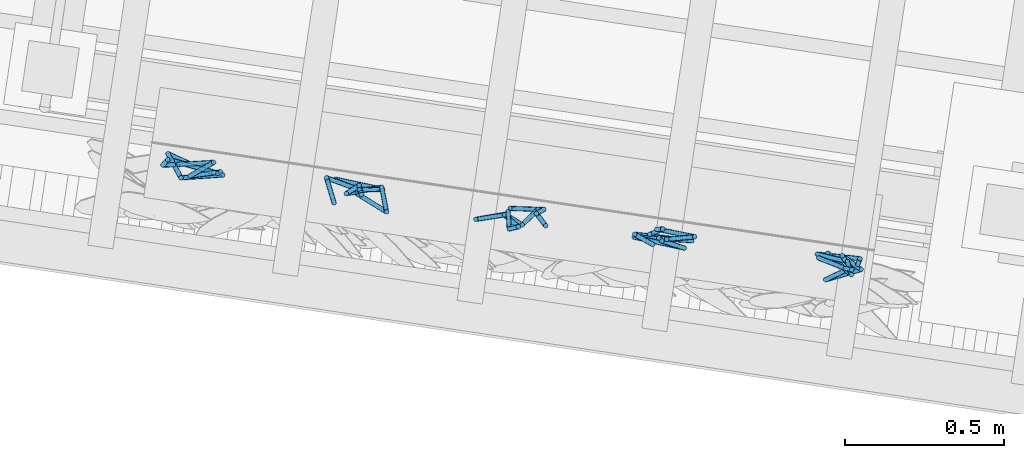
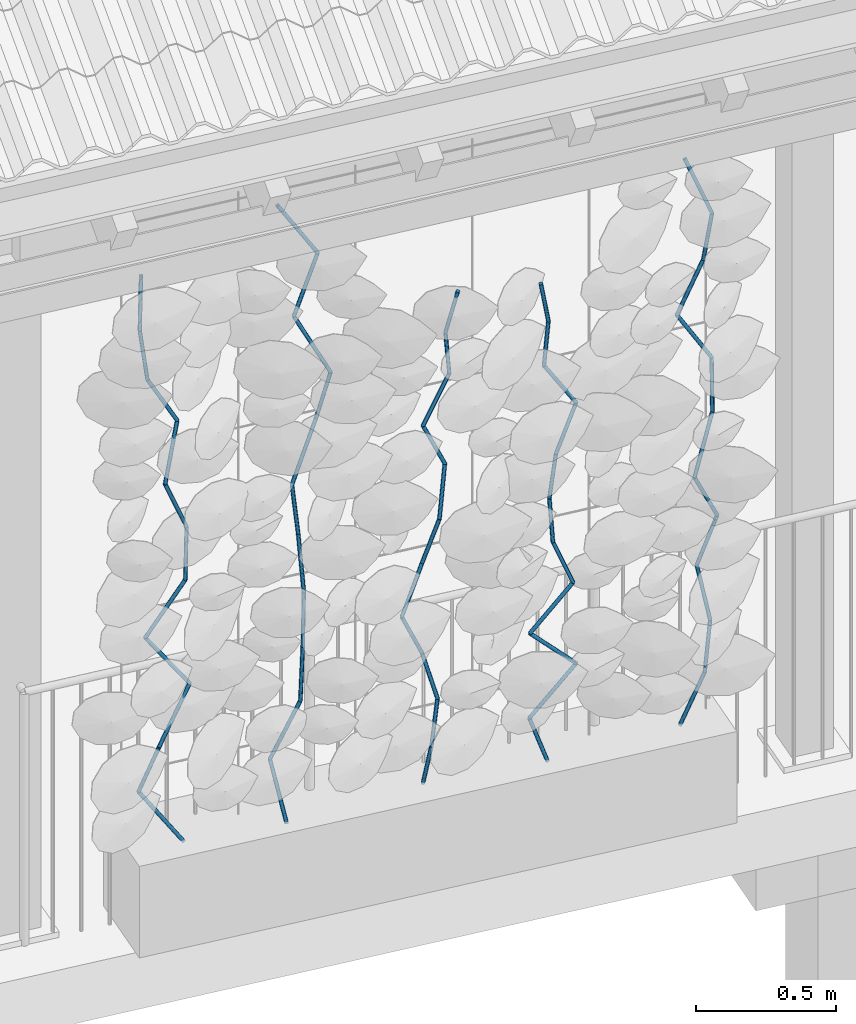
# One storey, part 105 of 131: 55 members, 1 element without a shape of its own.
"""IFC4 building model written with IfcOpenShell, lengths in metres."""

from ifc_helpers import new_model, si_unit, direction, frame, origin_with_axes, place, context, subcontext, project, spatial, circle, extrude, material, material_profile, profile_set, profile_usage, type_object, element, aggregate, save


model = new_model("IFC4")

# Units and contexts
model_context = context("Model", 3, precision=1e-05, world=origin_with_axes(), true_north=direction((0.0, 1.0)))
body_context = subcontext(model_context, "Body", "Model", "MODEL_VIEW")
ifc_project = project(units=[si_unit("VOLUMEUNIT", "CUBIC_METRE"), si_unit("LENGTHUNIT", "METRE"), si_unit("AREAUNIT", "SQUARE_METRE")], contexts=[model_context])

# Site, building, storey
site_placement = place(None, origin_with_axes())
site = spatial("IfcSite", under=ifc_project, at=site_placement, Name="Lares · Rua das Mercês · artigo 4771")
building_placement = place(site_placement, frame((15.0, 9.7, 14.65), z_axis=(0.0, 0.0, 1.0), x_axis=(0.989015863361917, -0.147809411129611, 0.0)))
building = spatial("IfcBuilding", under=site, at=building_placement, Name="Casa Sobreposta")
storey_placement = place(building_placement, origin_with_axes())
storey = spatial("IfcBuildingStorey", under=building, at=storey_placement, Name="00 · Habitação e estacionamento", Elevation=14.65)

# Assembly, members
assembly_placement = place(storey_placement, origin_with_axes())
assembly = element("IfcElementAssembly", 1, at=assembly_placement, inside=storey, Name="Fachada sul e pátio · estrutura e trepadeiras", ObjectType="LIVING_SHADE_TRELLIS", PredefinedType="USERDEFINED")
ifc_material = material(Name="Ramos de trepadeiras", Category="wood")
ifc_material_profile = material_profile(ifc_material, circle(Radius=0.0075))
ifc_profile_set = profile_set([ifc_material_profile], Name="D0.015")
ifc_profile_usage_1 = profile_usage(ifc_profile_set)
member_type = type_object("IfcMemberType", Name="D0.015 / vine_wood", PredefinedType="NOTDEFINED", material=ifc_profile_set)
member_1_placement = place(assembly_placement, frame((-5.48911948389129, -1.68313375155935, 0.35), z_axis=(-0.5585958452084, 0.161686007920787, 0.813528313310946), x_axis=(0.278037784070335, 0.960570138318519, 0.0)))
member_1 = element("IfcMember", 2, at=member_1_placement, type_object=member_type, material=ifc_profile_usage_1, Name="Trepadeiras · ramo", context=body_context, shape_type="SweptSolid", body=[
    extrude(circle(Radius=0.0075), origin_with_axes(), (0.0, 0.0, 1.0), 0.279247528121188),
])
ifc_profile_usage_2 = profile_usage(ifc_profile_set)
member_2_placement = place(assembly_placement, frame((-5.64510599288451, -1.63798333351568, 0.577175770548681), z_axis=(0.214287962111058, -0.283819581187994, 0.934626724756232), x_axis=(-0.798074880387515, -0.602558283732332, -1.82360061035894e-17)))
member_2 = element("IfcMember", 3, at=member_2_placement, type_object=member_type, material=ifc_profile_usage_2, Name="Trepadeiras · ramo", context=body_context, shape_type="SweptSolid", body=[
    extrude(circle(Radius=0.0075), origin_with_axes(), (0.0, 0.0, 1.0), 0.243065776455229),
])
ifc_profile_usage_3 = profile_usage(ifc_profile_set)
member_3_placement = place(assembly_placement, frame((-5.59301992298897, -1.70697016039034, 0.804351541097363), z_axis=(0.49060306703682, 0.107168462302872, 0.864767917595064), x_axis=(0.213409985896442, -0.976962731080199, 0.0)))
member_3 = element("IfcMember", 4, at=member_3_placement, type_object=member_type, material=ifc_profile_usage_3, Name="Trepadeiras · ramo", context=body_context, shape_type="SweptSolid", body=[
    extrude(circle(Radius=0.0075), origin_with_axes(), (0.0, 0.0, 1.0), 0.262701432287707),
])
ifc_profile_usage_4 = profile_usage(ifc_profile_set)
member_4_placement = place(assembly_placement, frame((-5.46413779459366, -1.67881685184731, 1.03152731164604), z_axis=(-0.580908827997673, 0.0761918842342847, 0.810394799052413), x_axis=(0.130045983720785, 0.991507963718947, 0.0)))
member_4 = element("IfcMember", 5, at=member_4_placement, type_object=member_type, material=ifc_profile_usage_4, Name="Trepadeiras · ramo", context=body_context, shape_type="SweptSolid", body=[
    extrude(circle(Radius=0.0075), origin_with_axes(), (0.0, 0.0, 1.0), 0.280327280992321),
])
ifc_profile_usage_5 = profile_usage(ifc_profile_set)
member_5_placement = place(assembly_placement, frame((-5.62698238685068, -1.65745818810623, 1.25870308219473), z_axis=(0.542876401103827, -0.0652245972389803, 0.837275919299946), x_axis=(-0.119288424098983, -0.992859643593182, 0.0)))
member_5 = element("IfcMember", 6, at=member_5_placement, type_object=member_type, material=ifc_profile_usage_5, Name="Trepadeiras · ramo", context=body_context, shape_type="SweptSolid", body=[
    extrude(circle(Radius=0.0075), origin_with_axes(), (0.0, 0.0, 1.0), 0.27132724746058),
])
ifc_profile_usage_6 = profile_usage(ifc_profile_set)
member_6_placement = place(assembly_placement, frame((-5.47968522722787, -1.6751553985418, 1.48587885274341), z_axis=(0.0303617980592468, 0.0225812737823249, 0.999283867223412), x_axis=(0.999538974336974, -0.000685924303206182, -0.0303540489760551)))
member_6 = element("IfcMember", 7, at=member_6_placement, type_object=member_type, material=ifc_profile_usage_6, Name="Trepadeiras · ramo", context=body_context, shape_type="SweptSolid", body=[
    extrude(circle(Radius=0.0075), origin_with_axes(), (0.0, 0.0, 1.0), 0.227338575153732),
])
ifc_profile_usage_7 = profile_usage(ifc_profile_set)
member_7_placement = place(assembly_placement, frame((-5.47278281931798, -1.67002180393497, 1.71305462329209), z_axis=(-0.377036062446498, -0.109503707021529, 0.919702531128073), x_axis=(-0.278907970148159, 0.960317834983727, 0.0)))
member_7 = element("IfcMember", 8, at=member_7_placement, type_object=member_type, material=ifc_profile_usage_7, Name="Trepadeiras · ramo", context=body_context, shape_type="SweptSolid", body=[
    extrude(circle(Radius=0.0075), origin_with_axes(), (0.0, 0.0, 1.0), 0.24701005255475),
])
ifc_profile_usage_8 = profile_usage(ifc_profile_set)
member_8_placement = place(assembly_placement, frame((-5.56591451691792, -1.6970703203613, 1.94023039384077), z_axis=(0.277419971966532, 0.219319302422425, 0.935380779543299), x_axis=(0.620172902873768, -0.784465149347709, 0.0)))
member_8 = element("IfcMember", 9, at=member_8_placement, type_object=member_type, material=ifc_profile_usage_8, Name="Trepadeiras · ramo", context=body_context, shape_type="SweptSolid", body=[
    extrude(circle(Radius=0.0075), origin_with_axes(), (0.0, 0.0, 1.0), 0.242869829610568),
])
ifc_profile_usage_9 = profile_usage(ifc_profile_set)
member_9_placement = place(assembly_placement, frame((-5.49853757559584, -1.64380427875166, 2.16740616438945), z_axis=(-0.479601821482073, -0.100828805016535, 0.871674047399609), x_axis=(-0.205736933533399, 0.97860733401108, 0.0)))
member_9 = element("IfcMember", 10, at=member_9_placement, type_object=member_type, material=ifc_profile_usage_9, Name="Trepadeiras · ramo", context=body_context, shape_type="SweptSolid", body=[
    extrude(circle(Radius=0.0075), origin_with_axes(), (0.0, 0.0, 1.0), 0.260620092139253),
])
ifc_profile_usage_10 = profile_usage(ifc_profile_set)
member_10_placement = place(assembly_placement, frame((-5.62353144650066, -1.67008229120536, 2.39458193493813), z_axis=(-0.138199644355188, -0.0231936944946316, 0.99013277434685), x_axis=(-0.165512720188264, 0.986207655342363, 0.0)))
member_10 = element("IfcMember", 11, at=member_10_placement, type_object=member_type, material=ifc_profile_usage_10, Name="Trepadeiras · ramo", context=body_context, shape_type="SweptSolid", body=[
    extrude(circle(Radius=0.0075), origin_with_axes(), (0.0, 0.0, 1.0), 0.229439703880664),
])
ifc_profile_usage_11 = profile_usage(ifc_profile_set)
member_11_placement = place(assembly_placement, frame((-5.65523993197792, -1.67540384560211, 2.62175770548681), z_axis=(0.0535549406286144, 0.0806436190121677, 0.99530320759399), x_axis=(0.833038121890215, -0.55321558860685, 0.0)))
member_11 = element("IfcMember", 12, at=member_11_placement, type_object=member_type, material=ifc_profile_usage_11, Name="Trepadeiras · ramo", context=body_context, shape_type="SweptSolid", body=[
    extrude(circle(Radius=0.0075), origin_with_axes(), (0.0, 0.0, 1.0), 0.228247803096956),
])
ifc_profile_usage_12 = profile_usage(ifc_profile_set)
member_12_placement = place(assembly_placement, frame((-5.10468814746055, -1.71366116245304, 0.35), z_axis=(-0.137802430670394, 0.29166054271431, 0.946543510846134), x_axis=(0.90416024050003, 0.427193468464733, 0.0)))
member_12 = element("IfcMember", 13, at=member_12_placement, type_object=member_type, material=ifc_profile_usage_12, Name="Trepadeiras · ramo", context=body_context, shape_type="SweptSolid", body=[
    extrude(circle(Radius=0.0075), origin_with_axes(), (0.0, 0.0, 1.0), 0.255140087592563),
])
ifc_profile_usage_13 = profile_usage(ifc_profile_set)
member_13_placement = place(assembly_placement, frame((-5.13984707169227, -1.63924686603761, 0.591501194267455), z_axis=(0.408423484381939, -0.0832690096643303, 0.908986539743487), x_axis=(-0.199769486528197, -0.9798429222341, 0.0)))
member_13 = element("IfcMember", 14, at=member_13_placement, type_object=member_type, material=ifc_profile_usage_13, Name="Trepadeiras · ramo", context=body_context, shape_type="SweptSolid", body=[
    extrude(circle(Radius=0.0075), origin_with_axes(), (0.0, 0.0, 1.0), 0.265681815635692),
])
ifc_profile_usage_14 = profile_usage(ifc_profile_set)
member_14_placement = place(assembly_placement, frame((-5.03133637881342, -1.66136992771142, 0.83300238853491), z_axis=(0.0253217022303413, -0.0345834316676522, 0.999080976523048), x_axis=(0.999679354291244, 0.000875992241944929, -0.0253065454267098)))
member_14 = element("IfcMember", 15, at=member_14_placement, type_object=member_type, material=ifc_profile_usage_14, Name="Trepadeiras · ramo", context=body_context, shape_type="SweptSolid", body=[
    extrude(circle(Radius=0.0075), origin_with_axes(), (0.0, 0.0, 1.0), 0.241723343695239),
])
ifc_profile_usage_15 = profile_usage(ifc_profile_set)
member_15_placement = place(assembly_placement, frame((-5.02521553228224, -1.66972955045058, 1.07450358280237), z_axis=(0.00711907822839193, -0.0231558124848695, 0.999706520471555), x_axis=(0.999974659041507, 0.000164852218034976, -0.00711716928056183)))
member_15 = element("IfcMember", 16, at=member_15_placement, type_object=member_type, material=ifc_profile_usage_15, Name="Trepadeiras · ramo", context=body_context, shape_type="SweptSolid", body=[
    extrude(circle(Radius=0.0075), origin_with_axes(), (0.0, 0.0, 1.0), 0.241572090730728),
])
ifc_profile_usage_16 = profile_usage(ifc_profile_set)
member_16_placement = place(assembly_placement, frame((-5.02349576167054, -1.67532334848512, 1.31600477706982), z_axis=(-0.045968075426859, 0.11193816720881, 0.992651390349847), x_axis=(0.925038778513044, 0.379872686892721, 0.0)))
member_16 = element("IfcMember", 17, at=member_16_placement, type_object=member_type, material=ifc_profile_usage_16, Name="Trepadeiras · ramo", context=body_context, shape_type="SweptSolid", body=[
    extrude(circle(Radius=0.0075), origin_with_axes(), (0.0, 0.0, 1.0), 0.243289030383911),
])
ifc_profile_usage_17 = profile_usage(ifc_profile_set)
member_17_placement = place(assembly_placement, frame((-5.03467929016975, -1.64809002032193, 1.55750597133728), z_axis=(-0.147228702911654, -0.12659142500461, 0.980968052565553), x_axis=(-0.651964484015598, 0.758249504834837, 0.0)))
member_17 = element("IfcMember", 18, at=member_17_placement, type_object=member_type, material=ifc_profile_usage_17, Name="Trepadeiras · ramo", context=body_context, shape_type="SweptSolid", body=[
    extrude(circle(Radius=0.0075), origin_with_axes(), (0.0, 0.0, 1.0), 0.246186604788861),
])
ifc_profile_usage_18 = profile_usage(ifc_profile_set)
member_18_placement = place(assembly_placement, frame((-5.07092502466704, -1.6792551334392, 1.79900716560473), z_axis=(0.40264919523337, 0.135561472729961, 0.905260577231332), x_axis=(0.319075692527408, -0.947729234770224, 0.0)))
member_18 = element("IfcMember", 19, at=member_18_placement, type_object=member_type, material=ifc_profile_usage_18, Name="Trepadeiras · ramo", context=body_context, shape_type="SweptSolid", body=[
    extrude(circle(Radius=0.0075), origin_with_axes(), (0.0, 0.0, 1.0), 0.266775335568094),
])
ifc_profile_usage_19 = profile_usage(ifc_profile_set)
member_19_placement = place(assembly_placement, frame((-4.96350815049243, -1.64309067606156, 2.04050835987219), z_axis=(0.103831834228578, -0.293087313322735, 0.950430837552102), x_axis=(-0.942596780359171, -0.33393309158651, 1.06049763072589e-17)))
member_19 = element("IfcMember", 20, at=member_19_placement, type_object=member_type, material=ifc_profile_usage_19, Name="Trepadeiras · ramo", context=body_context, shape_type="SweptSolid", body=[
    extrude(circle(Radius=0.0075), origin_with_axes(), (0.0, 0.0, 1.0), 0.254096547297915),
])
ifc_profile_usage_20 = profile_usage(ifc_profile_set)
member_20_placement = place(assembly_placement, frame((-4.93712483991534, -1.71756315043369, 2.28200955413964), z_axis=(-0.44006639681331, 0.189245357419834, 0.877797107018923), x_axis=(0.395057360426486, 0.918656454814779, 0.0)))
member_20 = element("IfcMember", 21, at=member_20_placement, type_object=member_type, material=ifc_profile_usage_20, Name="Trepadeiras · ramo", context=body_context, shape_type="SweptSolid", body=[
    extrude(circle(Radius=0.0075), origin_with_axes(), (0.0, 0.0, 1.0), 0.275121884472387),
])
ifc_profile_usage_21 = profile_usage(ifc_profile_set)
member_21_placement = place(assembly_placement, frame((-5.05819673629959, -1.6654976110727, 2.5235107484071), z_axis=(0.376883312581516, 0.0630175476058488, 0.924114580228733), x_axis=(0.164917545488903, -0.986307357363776, 0.0)))
member_21 = element("IfcMember", 22, at=member_21_placement, type_object=member_type, material=ifc_profile_usage_21, Name="Trepadeiras · ramo", context=body_context, shape_type="SweptSolid", body=[
    extrude(circle(Radius=0.0075), origin_with_axes(), (0.0, 0.0, 1.0), 0.261332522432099),
])
ifc_profile_usage_22 = profile_usage(ifc_profile_set)
member_22_placement = place(assembly_placement, frame((-4.9597048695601, -1.64902907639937, 2.76501194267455), z_axis=(-0.533411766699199, 0.0331714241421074, 0.845205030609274), x_axis=(0.0620673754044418, 0.998071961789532, 0.0)))
member_22 = element("IfcMember", 23, at=member_22_placement, type_object=member_type, material=ifc_profile_usage_22, Name="Trepadeiras · ramo", context=body_context, shape_type="SweptSolid", body=[
    extrude(circle(Radius=0.0075), origin_with_axes(), (0.0, 0.0, 1.0), 0.285730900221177),
])
ifc_profile_usage_23 = profile_usage(ifc_profile_set)
member_23_placement = place(assembly_placement, frame((-4.55888643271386, -1.65994677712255, 0.35), z_axis=(0.0582059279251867, -0.2646234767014, 0.962593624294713), x_axis=(-0.976653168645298, -0.214822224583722, 0.0)))
member_23 = element("IfcMember", 24, at=member_23_placement, type_object=member_type, material=ifc_profile_usage_23, Name="Trepadeiras · ramo", context=body_context, shape_type="SweptSolid", body=[
    extrude(circle(Radius=0.0075), origin_with_axes(), (0.0, 0.0, 1.0), 0.201881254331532),
])
ifc_profile_usage_24 = profile_usage(ifc_profile_set)
member_24_placement = place(assembly_placement, frame((-4.5471357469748, -1.7133692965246, 0.544329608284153), z_axis=(0.139714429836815, 0.0541381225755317, 0.988710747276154), x_axis=(0.361313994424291, -0.932444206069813, -5.7233605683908e-18)))
member_24 = element("IfcMember", 25, at=member_24_placement, type_object=member_type, material=ifc_profile_usage_24, Name="Trepadeiras · ramo", context=body_context, shape_type="SweptSolid", body=[
    extrude(circle(Radius=0.0075), origin_with_axes(), (0.0, 0.0, 1.0), 0.19654849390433),
])
ifc_profile_usage_25 = profile_usage(ifc_profile_set)
member_25_placement = place(assembly_placement, frame((-4.51967508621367, -1.70272853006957, 0.738659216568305), z_axis=(-0.24083116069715, 0.152433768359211, 0.958521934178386), x_axis=(0.534820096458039, 0.844965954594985, 0.0)))
member_25 = element("IfcMember", 26, at=member_25_placement, type_object=member_type, material=ifc_profile_usage_25, Name="Trepadeiras · ramo", context=body_context, shape_type="SweptSolid", body=[
    extrude(circle(Radius=0.0075), origin_with_axes(), (0.0, 0.0, 1.0), 0.202738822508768),
])
ifc_profile_usage_26 = profile_usage(ifc_profile_set)
member_26_placement = place(assembly_placement, frame((-4.56850091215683, -1.67182428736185, 0.932988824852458), z_axis=(-0.406142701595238, -0.127109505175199, 0.904926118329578), x_axis=(-0.298681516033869, 0.954352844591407, 0.0)))
member_26 = element("IfcMember", 27, at=member_26_placement, type_object=member_type, material=ifc_profile_usage_26, Name="Trepadeiras · ramo", context=body_context, shape_type="SweptSolid", body=[
    extrude(circle(Radius=0.0075), origin_with_axes(), (0.0, 0.0, 1.0), 0.214746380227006),
])
ifc_profile_usage_27 = profile_usage(ifc_profile_set)
member_27_placement = place(assembly_placement, frame((-4.65571858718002, -1.69912059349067, 1.12731843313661), z_axis=(0.415919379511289, 0.137488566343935, 0.898948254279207), x_axis=(0.313861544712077, -0.949468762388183, 1.42395565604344e-17)))
member_27 = element("IfcMember", 28, at=member_27_placement, type_object=member_type, material=ifc_profile_usage_27, Name="Trepadeiras · ramo", context=body_context, shape_type="SweptSolid", body=[
    extrude(circle(Radius=0.0075), origin_with_axes(), (0.0, 0.0, 1.0), 0.21617440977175),
])
ifc_profile_usage_28 = profile_usage(ifc_profile_set)
member_28_placement = place(assembly_placement, frame((-4.56580746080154, -1.66939908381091, 1.32164804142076), z_axis=(0.277708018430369, -0.125468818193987, 0.952436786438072), x_axis=(-0.411729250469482, -0.911306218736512, 0.0)))
member_28 = element("IfcMember", 29, at=member_28_placement, type_object=member_type, material=ifc_profile_usage_28, Name="Trepadeiras · ramo", context=body_context, shape_type="SweptSolid", body=[
    extrude(circle(Radius=0.0075), origin_with_axes(), (0.0, 0.0, 1.0), 0.204034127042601),
])
ifc_profile_usage_29 = profile_usage(ifc_profile_set)
member_29_placement = place(assembly_placement, frame((-4.50914554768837, -1.69499900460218, 1.51597764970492), z_axis=(0.207151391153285, 0.27088338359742, 0.940058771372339), x_axis=(0.794350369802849, -0.607459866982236, 0.0)))
member_29 = element("IfcMember", 30, at=member_29_placement, type_object=member_type, material=ifc_profile_usage_29, Name="Trepadeiras · ramo", context=body_context, shape_type="SweptSolid", body=[
    extrude(circle(Radius=0.0075), origin_with_axes(), (0.0, 0.0, 1.0), 0.206720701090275),
])
ifc_profile_usage_30 = profile_usage(ifc_profile_set)
member_30_placement = place(assembly_placement, frame((-4.46632306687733, -1.63900180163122, 1.71030725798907), z_axis=(-0.411905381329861, -0.0476821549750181, 0.90997822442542), x_axis=(-0.11499206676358, 0.993366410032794, 0.0)))
member_30 = element("IfcMember", 31, at=member_30_placement, type_object=member_type, material=ifc_profile_usage_30, Name="Trepadeiras · ramo", context=body_context, shape_type="SweptSolid", body=[
    extrude(circle(Radius=0.0075), origin_with_axes(), (0.0, 0.0, 1.0), 0.213554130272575),
])
ifc_profile_usage_31 = profile_usage(ifc_profile_set)
member_31_placement = place(assembly_placement, frame((-4.55428716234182, -1.64918452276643, 1.90463686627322), z_axis=(0.477641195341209, 0.0557818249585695, 0.876782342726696), x_axis=(0.115997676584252, -0.993249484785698, 0.0)))
member_31 = element("IfcMember", 32, at=member_31_placement, type_object=member_type, material=ifc_profile_usage_31, Name="Trepadeiras · ramo", context=body_context, shape_type="SweptSolid", body=[
    extrude(circle(Radius=0.0075), origin_with_axes(), (0.0, 0.0, 1.0), 0.221639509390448),
])
ifc_profile_usage_32 = profile_usage(ifc_profile_set)
member_32_placement = place(assembly_placement, frame((-4.44842300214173, -1.63682106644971, 2.09896647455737), z_axis=(-0.107089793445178, -0.0814407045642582, 0.990908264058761), x_axis=(-0.605330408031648, 0.795974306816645, 0.0)))
member_32 = element("IfcMember", 33, at=member_32_placement, type_object=member_type, material=ifc_profile_usage_32, Name="Trepadeiras · ramo", context=body_context, shape_type="SweptSolid", body=[
    extrude(circle(Radius=0.0075), origin_with_axes(), (0.0, 0.0, 1.0), 0.196112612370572),
])
ifc_profile_usage_33 = profile_usage(ifc_profile_set)
member_33_placement = place(assembly_placement, frame((-4.46942466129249, -1.65279261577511, 2.29329608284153), z_axis=(0.172625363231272, -0.169503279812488, 0.970293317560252), x_axis=(-0.70062493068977, -0.713529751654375, 0.0)))
member_33 = element("IfcMember", 34, at=member_33_placement, type_object=member_type, material=ifc_profile_usage_33, Name="Trepadeiras · ramo", context=body_context, shape_type="SweptSolid", body=[
    extrude(circle(Radius=0.0075), origin_with_axes(), (0.0, 0.0, 1.0), 0.200279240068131),
])
ifc_profile_usage_34 = profile_usage(ifc_profile_set)
member_34_placement = place(assembly_placement, frame((-4.09287553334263, -1.6949556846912, 0.35), z_axis=(-0.307187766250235, 0.116740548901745, 0.944461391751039), x_axis=(0.355242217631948, 0.934774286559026, 0.0)))
member_34 = element("IfcMember", 35, at=member_34_placement, type_object=member_type, material=ifc_profile_usage_34, Name="Trepadeiras · ramo", context=body_context, shape_type="SweptSolid", body=[
    extrude(circle(Radius=0.0075), origin_with_axes(), (0.0, 0.0, 1.0), 0.199476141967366),
])
ifc_profile_usage_35 = profile_usage(ifc_profile_set)
member_35_placement = place(assembly_placement, frame((-4.1541521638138, -1.67166873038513, 0.538397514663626), z_axis=(0.696809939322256, 0.0254508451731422, 0.716804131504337), x_axis=(0.0365004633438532, -0.999333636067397, 0.0)))
member_35 = element("IfcMember", 36, at=member_35_placement, type_object=member_type, material=ifc_profile_usage_35, Name="Trepadeiras · ramo", context=body_context, shape_type="SweptSolid", body=[
    extrude(circle(Radius=0.0075), origin_with_axes(), (0.0, 0.0, 1.0), 0.262829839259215),
])
ifc_profile_usage_36 = profile_usage(ifc_profile_set)
member_36_placement = place(assembly_placement, frame((-3.97100971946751, -1.66497948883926, 0.726795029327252), z_axis=(-0.698068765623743, -0.0595200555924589, 0.713552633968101), x_axis=(-0.0849556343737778, 0.99638473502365, 0.0)))
member_36 = element("IfcMember", 37, at=member_36_placement, type_object=member_type, material=ifc_profile_usage_36, Name="Trepadeiras · ramo", context=body_context, shape_type="SweptSolid", body=[
    extrude(circle(Radius=0.0075), origin_with_axes(), (0.0, 0.0, 1.0), 0.264027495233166),
])
ifc_profile_usage_37 = profile_usage(ifc_profile_set)
member_37_placement = place(assembly_placement, frame((-4.15531906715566, -1.68069442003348, 0.915192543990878), z_axis=(0.651819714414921, -0.0434715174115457, 0.757126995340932), x_axis=(-0.0665447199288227, -0.997783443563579, 0.0)))
member_37 = element("IfcMember", 38, at=member_37_placement, type_object=member_type, material=ifc_profile_usage_37, Name="Trepadeiras · ramo", context=body_context, shape_type="SweptSolid", body=[
    extrude(circle(Radius=0.0075), origin_with_axes(), (0.0, 0.0, 1.0), 0.248832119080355),
])
ifc_profile_usage_38 = profile_usage(ifc_profile_set)
member_38_placement = place(assembly_placement, frame((-3.99312538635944, -1.69151152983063, 1.1035900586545), z_axis=(-0.362175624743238, 0.0579118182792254, 0.930309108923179), x_axis=(0.157894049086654, 0.987456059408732, 8.80006917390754e-18)))
member_38 = element("IfcMember", 39, at=member_38_placement, type_object=member_type, material=ifc_profile_usage_38, Name="Trepadeiras · ramo", context=body_context, shape_type="SweptSolid", body=[
    extrude(circle(Radius=0.0075), origin_with_axes(), (0.0, 0.0, 1.0), 0.202510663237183),
])
ifc_profile_usage_39 = profile_usage(ifc_profile_set)
member_39_placement = place(assembly_placement, frame((-4.06646981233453, -1.67978376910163, 1.29198757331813), z_axis=(-0.0557975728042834, 0.042595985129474, 0.997533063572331), x_axis=(0.606795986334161, 0.794857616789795, 0.0)))
member_39 = element("IfcMember", 40, at=member_39_placement, type_object=member_type, material=ifc_profile_usage_39, Name="Trepadeiras · ramo", context=body_context, shape_type="SweptSolid", body=[
    extrude(circle(Radius=0.0075), origin_with_axes(), (0.0, 0.0, 1.0), 0.188863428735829),
])
ifc_profile_usage_40 = profile_usage(ifc_profile_set)
member_40_placement = place(assembly_placement, frame((-4.07700793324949, -1.6717389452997, 1.48038508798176), z_axis=(0.132079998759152, -0.00406458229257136, 0.991230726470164), x_axis=(-0.0307590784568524, -0.999526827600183, 0.0)))
member_40 = element("IfcMember", 41, at=member_40_placement, type_object=member_type, material=ifc_profile_usage_40, Name="Trepadeiras · ramo", context=body_context, shape_type="SweptSolid", body=[
    extrude(circle(Radius=0.0075), origin_with_axes(), (0.0, 0.0, 1.0), 0.190064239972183),
])
ifc_profile_usage_41 = profile_usage(ifc_profile_set)
member_41_placement = place(assembly_placement, frame((-4.0519042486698, -1.67251147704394, 1.66878260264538), z_axis=(0.413891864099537, 0.100720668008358, 0.904736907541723), x_axis=(0.236449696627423, -0.9716437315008, 0.0)))
member_41 = element("IfcMember", 42, at=member_41_placement, type_object=member_type, material=ifc_profile_usage_41, Name="Trepadeiras · ramo", context=body_context, shape_type="SweptSolid", body=[
    extrude(circle(Radius=0.0075), origin_with_axes(), (0.0, 0.0, 1.0), 0.208234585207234),
])
ifc_profile_usage_42 = profile_usage(ifc_profile_set)
member_42_placement = place(assembly_placement, frame((-3.96571764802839, -1.65153795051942, 1.85718011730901), z_axis=(-0.541985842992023, 0.0270437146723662, 0.839952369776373), x_axis=(0.0498354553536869, 0.998757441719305, 0.0)))
member_42 = element("IfcMember", 43, at=member_42_placement, type_object=member_type, material=ifc_profile_usage_42, Name="Trepadeiras · ramo", context=body_context, shape_type="SweptSolid", body=[
    extrude(circle(Radius=0.0075), origin_with_axes(), (0.0, 0.0, 1.0), 0.224295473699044),
])
ifc_profile_usage_43 = profile_usage(ifc_profile_set)
member_43_placement = place(assembly_placement, frame((-4.08728261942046, -1.6454721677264, 2.04557763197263), z_axis=(0.0964738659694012, 0.0163248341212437, 0.995201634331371), x_axis=(0.166843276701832, -0.985983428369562, 0.0)))
member_43 = element("IfcMember", 44, at=member_43_placement, type_object=member_type, material=ifc_profile_usage_43, Name="Trepadeiras · ramo", context=body_context, shape_type="SweptSolid", body=[
    extrude(circle(Radius=0.0075), origin_with_axes(), (0.0, 0.0, 1.0), 0.189305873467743),
])
ifc_profile_usage_44 = profile_usage(ifc_profile_set)
member_44_placement = place(assembly_placement, frame((-4.06901954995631, -1.64238178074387, 2.23397514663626), z_axis=(-0.197104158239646, -0.116474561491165, 0.973439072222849), x_axis=(-0.508742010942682, 0.860919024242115, 0.0)))
member_44 = element("IfcMember", 45, at=member_44_placement, type_object=member_type, material=ifc_profile_usage_44, Name="Trepadeiras · ramo", context=body_context, shape_type="SweptSolid", body=[
    extrude(circle(Radius=0.0075), origin_with_axes(), (0.0, 0.0, 1.0), 0.193538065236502),
])
ifc_profile_usage_45 = profile_usage(ifc_profile_set)
member_45_placement = place(assembly_placement, frame((-3.56977088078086, -1.65988401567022, 0.35), z_axis=(0.364069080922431, -0.0843859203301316, 0.927541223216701), x_axis=(-0.225799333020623, -0.974173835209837, 0.0)))
member_45 = element("IfcMember", 46, at=member_45_placement, type_object=member_type, material=ifc_profile_usage_45, Name="Trepadeiras · ramo", context=body_context, shape_type="SweptSolid", body=[
    extrude(circle(Radius=0.0075), origin_with_axes(), (0.0, 0.0, 1.0), 0.2409562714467),
])
ifc_profile_usage_46 = profile_usage(ifc_profile_set)
member_46_placement = place(assembly_placement, frame((-3.48204615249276, -1.68021733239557, 0.573496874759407), z_axis=(0.090375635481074, -0.00367253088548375, 0.995900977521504), x_axis=(-0.0406027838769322, -0.999175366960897, 0.0)))
member_46 = element("IfcMember", 47, at=member_46_placement, type_object=member_type, material=ifc_profile_usage_46, Name="Trepadeiras · ramo", context=body_context, shape_type="SweptSolid", body=[
    extrude(circle(Radius=0.0075), origin_with_axes(), (0.0, 0.0, 1.0), 0.224416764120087),
])
ifc_profile_usage_47 = profile_usage(ifc_profile_set)
member_47_placement = place(assembly_placement, frame((-3.4617643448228, -1.68104150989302, 0.796993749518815), z_axis=(-0.15679958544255, 0.169233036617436, 0.973023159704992), x_axis=(0.733539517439, 0.6796468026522, 0.0)))
member_47 = element("IfcMember", 48, at=member_47_placement, type_object=member_type, material=ifc_profile_usage_47, Name="Trepadeiras · ramo", context=body_context, shape_type="SweptSolid", body=[
    extrude(circle(Radius=0.0075), origin_with_axes(), (0.0, 0.0, 1.0), 0.229693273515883),
])
ifc_profile_usage_48 = profile_usage(ifc_profile_set)
member_48_placement = place(assembly_placement, frame((-3.49778015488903, -1.64216981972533, 1.02049062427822), z_axis=(0.277630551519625, -0.143382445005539, 0.949927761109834), x_axis=(-0.458868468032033, -0.888504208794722, 0.0)))
member_48 = element("IfcMember", 49, at=member_48_placement, type_object=member_type, material=ifc_profile_usage_48, Name="Trepadeiras · ramo", context=body_context, shape_type="SweptSolid", body=[
    extrude(circle(Radius=0.0075), origin_with_axes(), (0.0, 0.0, 1.0), 0.235277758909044),
])
ifc_profile_usage_49 = profile_usage(ifc_profile_set)
member_49_placement = place(assembly_placement, frame((-3.43245986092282, -1.67590452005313, 1.24398749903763), z_axis=(-0.422018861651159, -0.193526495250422, 0.885690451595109), x_axis=(-0.416834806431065, 0.908982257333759, 0.0)))
member_49 = element("IfcMember", 50, at=member_49_placement, type_object=member_type, material=ifc_profile_usage_49, Name="Trepadeiras · ramo", context=body_context, shape_type="SweptSolid", body=[
    extrude(circle(Radius=0.0075), origin_with_axes(), (0.0, 0.0, 1.0), 0.252341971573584),
])
ifc_profile_usage_50 = profile_usage(ifc_profile_set)
member_50_placement = place(assembly_placement, frame((-3.53895293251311, -1.72473937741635, 1.46748437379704), z_axis=(0.374557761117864, 0.252728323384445, 0.89209577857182), x_axis=(0.559323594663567, -0.828949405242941, 0.0)))
member_50 = element("IfcMember", 51, at=member_50_placement, type_object=member_type, material=ifc_profile_usage_50, Name="Trepadeiras · ramo", context=body_context, shape_type="SweptSolid", body=[
    extrude(circle(Radius=0.0075), origin_with_axes(), (0.0, 0.0, 1.0), 0.250530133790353),
])
ifc_profile_usage_51 = profile_usage(ifc_profile_set)
member_51_placement = place(assembly_placement, frame((-3.44511492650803, -1.66142331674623, 1.69098124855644), z_axis=(0.0181520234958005, 0.0820861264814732, 0.99645991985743), x_axis=(0.976411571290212, -0.215917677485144, 0.0)))
member_51 = element("IfcMember", 52, at=member_51_placement, type_object=member_type, material=ifc_profile_usage_51, Name="Trepadeiras · ramo", context=body_context, shape_type="SweptSolid", body=[
    extrude(circle(Radius=0.0075), origin_with_axes(), (0.0, 0.0, 1.0), 0.224290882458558),
])
ifc_profile_usage_52 = profile_usage(ifc_profile_set)
member_52_placement = place(assembly_placement, frame((-3.44104359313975, -1.64301214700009, 1.91447812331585), z_axis=(-0.519270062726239, -0.0208159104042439, 0.854356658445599), x_axis=(-0.0400546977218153, 0.99919748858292, 0.0)))
member_52 = element("IfcMember", 53, at=member_52_placement, type_object=member_type, material=ifc_profile_usage_52, Name="Trepadeiras · ramo", context=body_context, shape_type="SweptSolid", body=[
    extrude(circle(Radius=0.0075), origin_with_axes(), (0.0, 0.0, 1.0), 0.261596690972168),
])
ifc_profile_usage_53 = profile_usage(ifc_profile_set)
member_53_placement = place(assembly_placement, frame((-3.57688292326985, -1.64845752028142, 2.13797499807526), z_axis=(0.401780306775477, -0.0378767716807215, 0.914952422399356), x_axis=(-0.0938562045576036, -0.995585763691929, 0.0)))
member_53 = element("IfcMember", 54, at=member_53_placement, type_object=member_type, material=ifc_profile_usage_53, Name="Trepadeiras · ramo", context=body_context, shape_type="SweptSolid", body=[
    extrude(circle(Radius=0.0075), origin_with_axes(), (0.0, 0.0, 1.0), 0.24427158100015),
])
ifc_profile_usage_54 = profile_usage(ifc_profile_set)
member_54_placement = place(assembly_placement, frame((-3.47873941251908, -1.65770973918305, 2.36147187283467), z_axis=(0.0800360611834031, -0.172430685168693, 0.98176468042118), x_axis=(-0.907051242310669, -0.421020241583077, 0.0)))
member_54 = element("IfcMember", 55, at=member_54_placement, type_object=member_type, material=ifc_profile_usage_54, Name="Trepadeiras · ramo", context=body_context, shape_type="SweptSolid", body=[
    extrude(circle(Radius=0.0075), origin_with_axes(), (0.0, 0.0, 1.0), 0.227648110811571),
])
ifc_profile_usage_55 = profile_usage(ifc_profile_set)
member_55_placement = place(assembly_placement, frame((-3.46051935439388, -1.69696325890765, 2.58496874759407), z_axis=(-0.339487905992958, 0.231447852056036, 0.911690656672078), x_axis=(0.563301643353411, 0.826251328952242, 0.0)))
member_55 = element("IfcMember", 56, at=member_55_placement, type_object=member_type, material=ifc_profile_usage_55, Name="Trepadeiras · ramo", context=body_context, shape_type="SweptSolid", body=[
    extrude(circle(Radius=0.0075), origin_with_axes(), (0.0, 0.0, 1.0), 0.245145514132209),
])
aggregate(assembly, [member_1, member_2, member_3, member_4, member_5, member_6, member_7, member_8, member_9, member_10, member_11, member_12, member_13, member_14, member_15, member_16, member_17, member_18, member_19, member_20, member_21, member_22, member_23, member_24, member_25, member_26, member_27, member_28, member_29, member_30, member_31, member_32, member_33, member_34, member_35, member_36, member_37, member_38, member_39, member_40, member_41, member_42, member_43, member_44, member_45, member_46, member_47, member_48, member_49, member_50, member_51, member_52, member_53, member_54, member_55])

save(model, "model.ifc")
